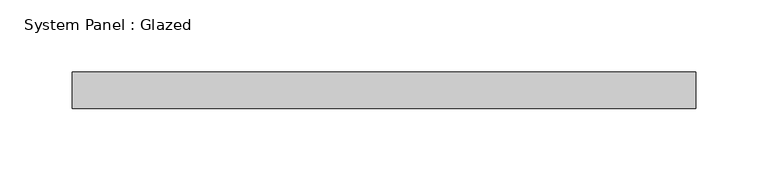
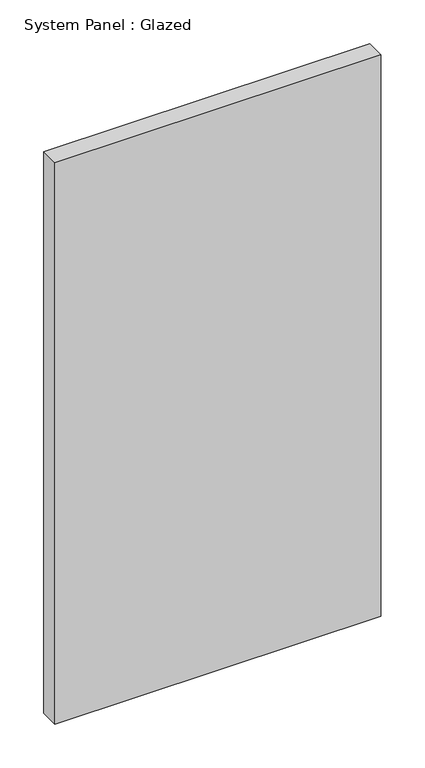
"""IFC4 building model written with IfcOpenShell, lengths in millimetres: plate geometry, System Panel : Glazed."""

from ifc_helpers import new_model, si_unit, origin, origin_with_axes, place, context, project, spatial, polyline, outline, extrude, source, transform, mapped, element, save


def system_panel_glazed_5b6b6e01(model_context):
    return source(origin(), model_context, "Body", "SweptSolid", [
        extrude(outline(polyline([(215.0, 24.5), (-215.0, 24.5), (-215.0, 49.5), (215.0, 49.5), (215.0, 24.5)])), origin_with_axes(), (0.0, 0.0, 1.0), 782.9520935),
    ])


if __name__ == "__main__":
    model = new_model("IFC4")
    model_context = context("Model", 3, world=origin())
    ifc_project = project(units=[si_unit("LENGTHUNIT", "METRE", prefix="MILLI")], contexts=[model_context])
    site = spatial("IfcSite", under=ifc_project)
    building = spatial("IfcBuilding", under=site)
    placement = place(None, origin())
    system_panel_glazed_shape = system_panel_glazed_5b6b6e01(model_context)
    element("IfcPlate", 1, ObjectType="System Panel : Glazed", at=placement, inside=building, context=model_context, shape_type="MappedRepresentation", body=[
        mapped(system_panel_glazed_shape, transform((0.0, 0.0, 0.0), x_axis=(1.0, 0.0, 0.0), y_axis=(0.0, 1.0, 0.0), z_axis=(0.0, 0.0, 1.0))),
    ])
    save(model, "model.ifc")
